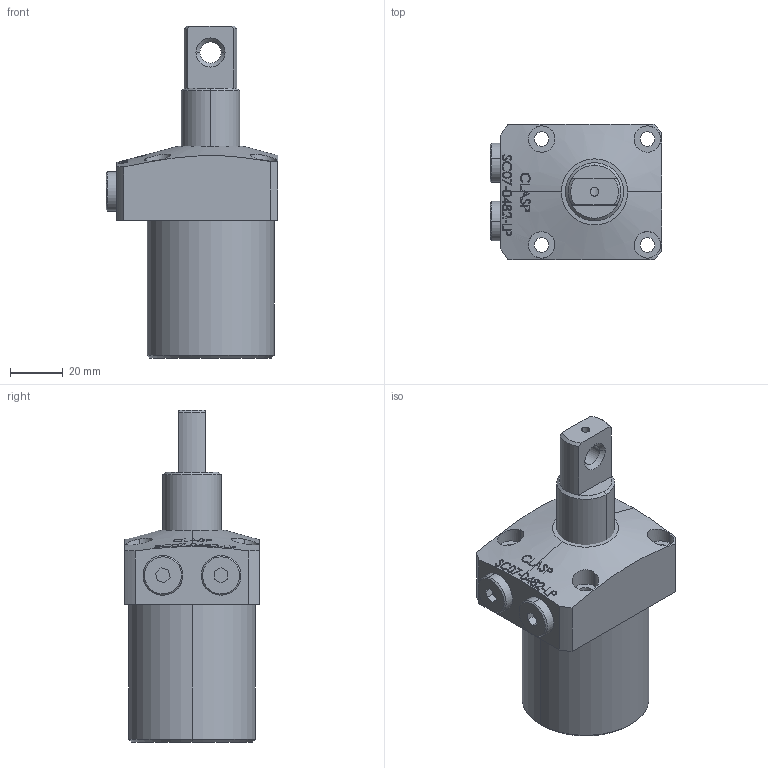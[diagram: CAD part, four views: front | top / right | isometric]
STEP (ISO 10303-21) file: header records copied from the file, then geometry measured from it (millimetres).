
FILE_DESCRIPTION (( 'STEP AP203' ), '1' );
FILE_NAME ('SC07-0482-LP.STEP', '2022-07-08T16:54:07', ( '' ), ( '' ), 'SwSTEP 2.0', 'SolidWorks 2017', '' );
FILE_SCHEMA (( 'CONFIG_CONTROL_DESIGN' ));
Length unit declared in the file: millimetre
Products named in the file (4): SC-07-0482-LP BODY; SC-07-0482-LP-Piston; SC-07-0482-LP-05 plug; SC07-0482-LP
Assembly tree (4 placements, depth 2):
  SC07-0482-LP
    SC-07-0482-LP BODY
    SC-07-0482-LP-Piston
    SC-07-0482-LP-05 plug  x2
Bounding box: 65 x 51 x 125.5 mm (x, y, z)
Volume: 190937.8 mm3; surface area: 29648.5 mm2
Topology: 4 solids, 4 shells, 323 faces, 808 edges, 532 vertices
Faces by surface type: plane 143, bspline 101, cylinder 50, cone 29
Entity records: 15382 total; most frequent: CARTESIAN_POINT 8322, ORIENTED_EDGE 1552, DIRECTION 998, EDGE_CURVE 776, VERTEX_POINT 512, LINE 362, VECTOR 362, EDGE_LOOP 358
